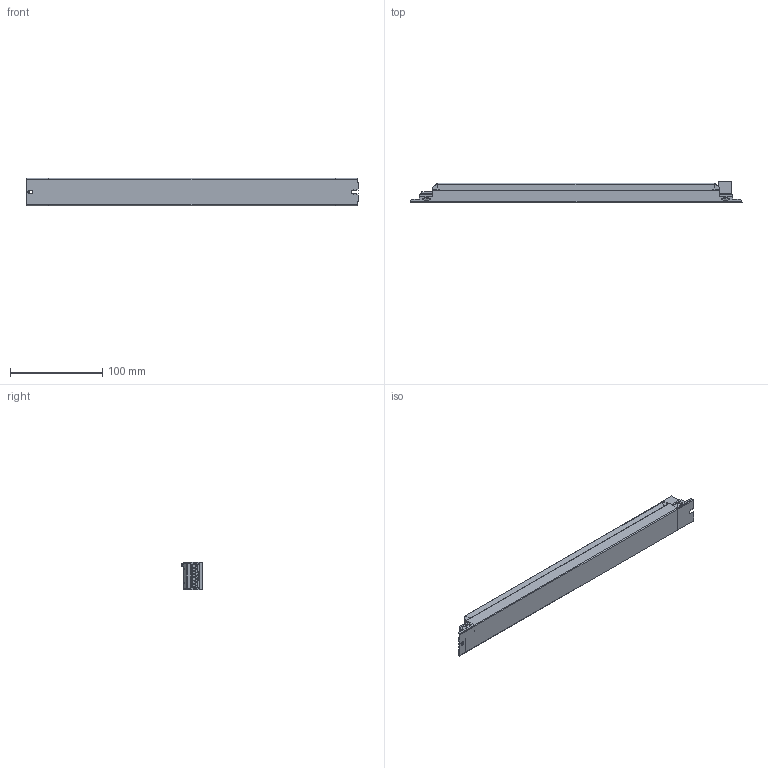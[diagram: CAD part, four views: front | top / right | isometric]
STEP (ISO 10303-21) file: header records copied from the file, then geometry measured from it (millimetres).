
FILE_DESCRIPTION (( 'STEP AP214' ), '1' );
FILE_NAME ('4165666swm000.step', '2019-11-25T07:23:56', ( 'OSRAM' ), ( 'OSRAM' ), 'SwSTEP 2.0', 'SolidWorks 2017', '' );
FILE_SCHEMA (( 'AUTOMOTIVE_DESIGN' ));
Length unit declared in the file: millimetre
Products named in the file (1): 4165666swm000
Bounding box: 359 x 23.15 x 30 mm (x, y, z)
Volume: 198020.8 mm3; surface area: 42890.7 mm2
Topology: 1 solids, 1 shells, 798 faces, 2201 edges, 1412 vertices
Faces by surface type: plane 499, cylinder 265, bspline 22, cone 8, sphere 4
Entity records: 34732 total; most frequent: CARTESIAN_POINT 5940, ORIENTED_EDGE 4394, DIRECTION 3913, EDGE_CURVE 2197, LINE 1513, VECTOR 1513, VERTEX_POINT 1412, AXIS2_PLACEMENT_3D 1200
